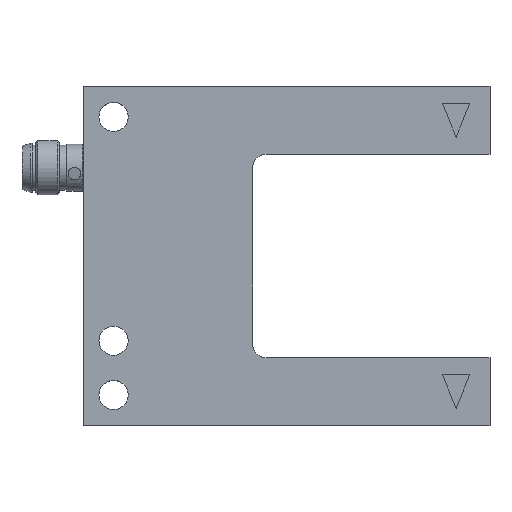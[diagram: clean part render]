
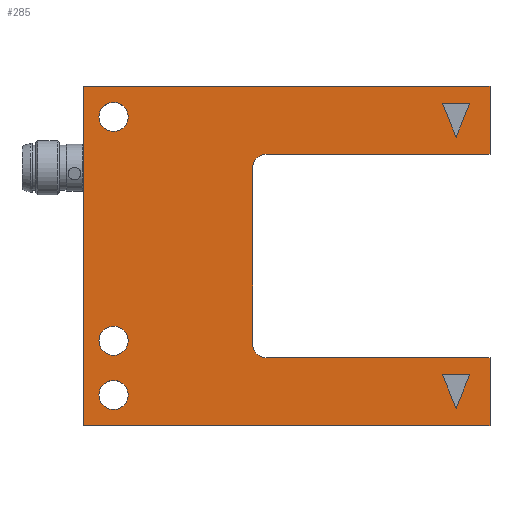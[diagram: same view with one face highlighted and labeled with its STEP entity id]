
A CAD part, top view. The second image highlights one B-rep face of the part: STEP entity #285.
In plain terms, the highlighted planar face has unit normal (0, 0, 1).
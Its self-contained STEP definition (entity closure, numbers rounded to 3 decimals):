
#285 = ADVANCED_FACE( '', ( #655, #656, #657, #658, #659, #660 ), #661, .F. );
#655 = FACE_OUTER_BOUND( '', #1093, .T. );
#656 = FACE_BOUND( '', #1094, .T. );
#657 = FACE_BOUND( '', #1095, .T. );
#658 = FACE_BOUND( '', #1096, .T. );
#659 = FACE_BOUND( '', #1097, .T. );
#660 = FACE_BOUND( '', #1098, .T. );
#661 = PLANE( '', #1099 );
#1093 = EDGE_LOOP( '', ( #1780, #1781, #1782, #1783, #1784, #1785, #1786, #1787, #1788, #1789 ) );
#1094 = EDGE_LOOP( '', ( #1790, #1791, #1792 ) );
#1095 = EDGE_LOOP( '', ( #1793, #1794, #1795 ) );
#1096 = EDGE_LOOP( '', ( #1796 ) );
#1097 = EDGE_LOOP( '', ( #1797 ) );
#1098 = EDGE_LOOP( '', ( #1798 ) );
#1099 = AXIS2_PLACEMENT_3D( '', #1799, #1800, #1801 );
#1780 = ORIENTED_EDGE( '', *, *, #2184, .T. );
#1781 = ORIENTED_EDGE( '', *, *, #2402, .F. );
#1782 = ORIENTED_EDGE( '', *, *, #2360, .T. );
#1783 = ORIENTED_EDGE( '', *, *, #2403, .F. );
#1784 = ORIENTED_EDGE( '', *, *, #2219, .T. );
#1785 = ORIENTED_EDGE( '', *, *, #2203, .F. );
#1786 = ORIENTED_EDGE( '', *, *, #2238, .F. );
#1787 = ORIENTED_EDGE( '', *, *, #2394, .F. );
#1788 = ORIENTED_EDGE( '', *, *, #2275, .F. );
#1789 = ORIENTED_EDGE( '', *, *, #2328, .F. );
#1790 = ORIENTED_EDGE( '', *, *, #2404, .T. );
#1791 = ORIENTED_EDGE( '', *, *, #2211, .T. );
#1792 = ORIENTED_EDGE( '', *, *, #2224, .T. );
#1793 = ORIENTED_EDGE( '', *, *, #2405, .T. );
#1794 = ORIENTED_EDGE( '', *, *, #2406, .T. );
#1795 = ORIENTED_EDGE( '', *, *, #2332, .T. );
#1796 = ORIENTED_EDGE( '', *, *, #2382, .T. );
#1797 = ORIENTED_EDGE( '', *, *, #2214, .T. );
#1798 = ORIENTED_EDGE( '', *, *, #2352, .T. );
#1799 = CARTESIAN_POINT( '', ( -25., 0., 5. ) );
#1800 = DIRECTION( '', ( 0., 0., -1. ) );
#1801 = DIRECTION( '', ( 0., 1., 0. ) );
#2184 = EDGE_CURVE( '', #2528, #2525, #2529, .T. );
#2203 = EDGE_CURVE( '', #2559, #2554, #2561, .T. );
#2211 = EDGE_CURVE( '', #2574, #2572, #2575, .T. );
#2214 = EDGE_CURVE( '', #2578, #2578, #2579, .T. );
#2219 = EDGE_CURVE( '', #2584, #2554, #2587, .T. );
#2224 = EDGE_CURVE( '', #2572, #2593, #2595, .T. );
#2238 = EDGE_CURVE( '', #2615, #2559, #2617, .T. );
#2275 = EDGE_CURVE( '', #2676, #2678, #2679, .T. );
#2328 = EDGE_CURVE( '', #2528, #2676, #2763, .T. );
#2332 = EDGE_CURVE( '', #2770, #2768, #2771, .T. );
#2352 = EDGE_CURVE( '', #2798, #2798, #2799, .T. );
#2360 = EDGE_CURVE( '', #2810, #2808, #2811, .T. );
#2382 = EDGE_CURVE( '', #2843, #2843, #2844, .T. );
#2394 = EDGE_CURVE( '', #2678, #2615, #2859, .T. );
#2402 = EDGE_CURVE( '', #2810, #2525, #2868, .T. );
#2403 = EDGE_CURVE( '', #2584, #2808, #2869, .T. );
#2404 = EDGE_CURVE( '', #2593, #2574, #2870, .T. );
#2405 = EDGE_CURVE( '', #2768, #2871, #2872, .T. );
#2406 = EDGE_CURVE( '', #2871, #2770, #2873, .T. );
#2525 = VERTEX_POINT( '', #3016 );
#2528 = VERTEX_POINT( '', #3020 );
#2529 = LINE( '', #3021, #3022 );
#2554 = VERTEX_POINT( '', #3064 );
#2559 = VERTEX_POINT( '', #3071 );
#2561 = LINE( '', #3074, #3075 );
#2572 = VERTEX_POINT( '', #3087 );
#2574 = VERTEX_POINT( '', #3090 );
#2575 = LINE( '', #3091, #3092 );
#2578 = VERTEX_POINT( '', #3096 );
#2579 = CIRCLE( '', #3097, 2.15 );
#2584 = VERTEX_POINT( '', #3102 );
#2587 = LINE( '', #3107, #3108 );
#2593 = VERTEX_POINT( '', #3115 );
#2595 = LINE( '', #3118, #3119 );
#2615 = VERTEX_POINT( '', #3143 );
#2617 = LINE( '', #3146, #3147 );
#2676 = VERTEX_POINT( '', #3221 );
#2678 = VERTEX_POINT( '', #3224 );
#2679 = LINE( '', #3225, #3226 );
#2763 = LINE( '', #3346, #3347 );
#2768 = VERTEX_POINT( '', #3353 );
#2770 = VERTEX_POINT( '', #3356 );
#2771 = LINE( '', #3357, #3358 );
#2798 = VERTEX_POINT( '', #3400 );
#2799 = CIRCLE( '', #3401, 2.15 );
#2808 = VERTEX_POINT( '', #3423 );
#2810 = VERTEX_POINT( '', #3426 );
#2811 = LINE( '', #3427, #3428 );
#2843 = VERTEX_POINT( '', #3467 );
#2844 = CIRCLE( '', #3468, 2.15 );
#2859 = LINE( '', #3498, #3499 );
#2868 = CIRCLE( '', #3509, 2. );
#2869 = CIRCLE( '', #3510, 2. );
#2870 = LINE( '', #3511, #3512 );
#2871 = VERTEX_POINT( '', #3513 );
#2872 = LINE( '', #3514, #3515 );
#2873 = LINE( '', #3516, #3517 );
#3016 = CARTESIAN_POINT( '', ( -28., -15., 5. ) );
#3020 = CARTESIAN_POINT( '', ( 5., -15., 5. ) );
#3021 = CARTESIAN_POINT( '', ( -10., -15., 5. ) );
#3022 = VECTOR( '', #3704, 1000. );
#3064 = CARTESIAN_POINT( '', ( 5., 15., 5. ) );
#3071 = CARTESIAN_POINT( '', ( 5., 25., 5. ) );
#3074 = CARTESIAN_POINT( '', ( 5., 25., 5. ) );
#3075 = VECTOR( '', #3730, 1000. );
#3087 = CARTESIAN_POINT( '', ( 2., -17.5, 5. ) );
#3090 = CARTESIAN_POINT( '', ( -2., -17.5, 5. ) );
#3091 = CARTESIAN_POINT( '', ( -11.5, -17.5, 5. ) );
#3092 = VECTOR( '', #3739, 1000. );
#3096 = CARTESIAN_POINT( '', ( -50.5, -22.65, 5. ) );
#3097 = AXIS2_PLACEMENT_3D( '', #3741, #3742, #3743 );
#3102 = CARTESIAN_POINT( '', ( -28., 15., 5. ) );
#3107 = CARTESIAN_POINT( '', ( -27.5, 15., 5. ) );
#3108 = VECTOR( '', #3749, 1000. );
#3115 = CARTESIAN_POINT( '', ( 0., -22.5, 5. ) );
#3118 = CARTESIAN_POINT( '', ( 2.155, -17.112, 5. ) );
#3119 = VECTOR( '', #3755, 1000. );
#3143 = CARTESIAN_POINT( '', ( -55., 25., 5. ) );
#3146 = CARTESIAN_POINT( '', ( -55., 25., 5. ) );
#3147 = VECTOR( '', #3773, 1000. );
#3221 = CARTESIAN_POINT( '', ( 5., -25., 5. ) );
#3224 = CARTESIAN_POINT( '', ( -55., -25., 5. ) );
#3225 = CARTESIAN_POINT( '', ( 5., -25., 5. ) );
#3226 = VECTOR( '', #3826, 1000. );
#3346 = CARTESIAN_POINT( '', ( 5., 25., 5. ) );
#3347 = VECTOR( '', #3901, 1000. );
#3353 = CARTESIAN_POINT( '', ( 0., 17.5, 5. ) );
#3356 = CARTESIAN_POINT( '', ( 2., 22.5, 5. ) );
#3357 = CARTESIAN_POINT( '', ( -4.741, 5.647, 5. ) );
#3358 = VECTOR( '', #3904, 1000. );
#3400 = CARTESIAN_POINT( '', ( -50.5, 18.35, 5. ) );
#3401 = AXIS2_PLACEMENT_3D( '', #3926, #3927, #3928 );
#3423 = CARTESIAN_POINT( '', ( -30., 13., 5. ) );
#3426 = CARTESIAN_POINT( '', ( -30., -13., 5. ) );
#3427 = CARTESIAN_POINT( '', ( -30., -7.5, 5. ) );
#3428 = VECTOR( '', #3936, 1000. );
#3467 = CARTESIAN_POINT( '', ( -50.5, -14.65, 5. ) );
#3468 = AXIS2_PLACEMENT_3D( '', #3959, #3960, #3961 );
#3498 = CARTESIAN_POINT( '', ( -55., -25., 5. ) );
#3499 = VECTOR( '', #3970, 1000. );
#3509 = AXIS2_PLACEMENT_3D( '', #3978, #3979, #3980 );
#3510 = AXIS2_PLACEMENT_3D( '', #3981, #3982, #3983 );
#3511 = CARTESIAN_POINT( '', ( -6.603, -5.991, 5. ) );
#3512 = VECTOR( '', #3984, 1000. );
#3513 = CARTESIAN_POINT( '', ( -2., 22.5, 5. ) );
#3514 = CARTESIAN_POINT( '', ( 0.293, 16.767, 5. ) );
#3515 = VECTOR( '', #3985, 1000. );
#3516 = CARTESIAN_POINT( '', ( -11.5, 22.5, 5. ) );
#3517 = VECTOR( '', #3986, 1000. );
#3704 = DIRECTION( '', ( -1., 0., 0. ) );
#3730 = DIRECTION( '', ( 0., -1., 0. ) );
#3739 = DIRECTION( '', ( 1., 0., 0. ) );
#3741 = CARTESIAN_POINT( '', ( -50.5, -20.5, 5. ) );
#3742 = DIRECTION( '', ( 0., 0., -1. ) );
#3743 = DIRECTION( '', ( 0., -1., 0. ) );
#3749 = DIRECTION( '', ( 1., 0., 0. ) );
#3755 = DIRECTION( '', ( -0.371, -0.928, 0. ) );
#3773 = DIRECTION( '', ( 1., 0., 0. ) );
#3826 = DIRECTION( '', ( -1., 0., 0. ) );
#3901 = DIRECTION( '', ( 0., -1., 0. ) );
#3904 = DIRECTION( '', ( -0.371, -0.928, 0. ) );
#3926 = CARTESIAN_POINT( '', ( -50.5, 20.5, 5. ) );
#3927 = DIRECTION( '', ( 0., 0., -1. ) );
#3928 = DIRECTION( '', ( 0., -1., 0. ) );
#3936 = DIRECTION( '', ( 0., 1., 0. ) );
#3959 = CARTESIAN_POINT( '', ( -50.5, -12.5, 5. ) );
#3960 = DIRECTION( '', ( 0., 0., -1. ) );
#3961 = DIRECTION( '', ( 0., -1., 0. ) );
#3970 = DIRECTION( '', ( 0., 1., 0. ) );
#3978 = CARTESIAN_POINT( '', ( -28., -13., 5. ) );
#3979 = DIRECTION( '', ( 0., 0., 1. ) );
#3980 = DIRECTION( '', ( -0.707, -0.707, 0. ) );
#3981 = CARTESIAN_POINT( '', ( -28., 13., 5. ) );
#3982 = DIRECTION( '', ( 0., 0., 1. ) );
#3983 = DIRECTION( '', ( -0.707, 0.707, 0. ) );
#3984 = DIRECTION( '', ( -0.371, 0.928, 0. ) );
#3985 = DIRECTION( '', ( -0.371, 0.928, 0. ) );
#3986 = DIRECTION( '', ( 1., 0., 0. ) );
